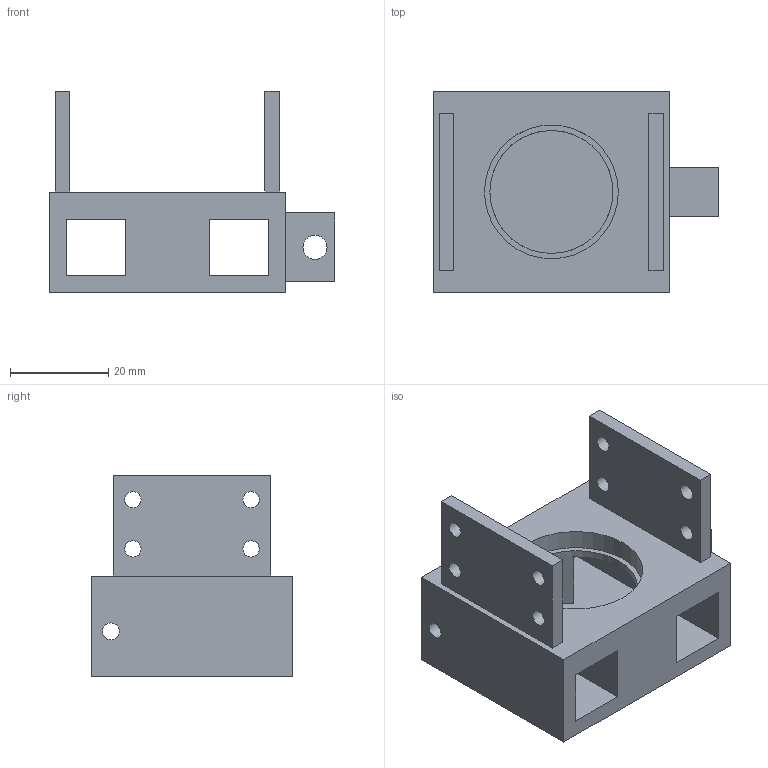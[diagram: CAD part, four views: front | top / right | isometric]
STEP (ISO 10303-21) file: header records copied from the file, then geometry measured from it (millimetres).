
FILE_DESCRIPTION(('Open CASCADE Model'),'2;1');
FILE_NAME('Open CASCADE Shape Model','2026-10-15T21:05:20',('Author'),( 'Open CASCADE'),'Open CASCADE STEP processor 7.9','Open CASCADE 7.9' ,'Unknown');
FILE_SCHEMA(('AUTOMOTIVE_DESIGN { 1 0 10303 214 1 1 1 1 }'));
Length unit declared in the file: millimetre
Products named in the file (1): Open CASCADE STEP translator 7.9 7
Bounding box: 58 x 41 x 41 mm (x, y, z)
Volume: 26072.1 mm3; surface area: 14977.7 mm2
Topology: 1 solids, 1 shells, 47 faces, 132 edges, 88 vertices
Faces by surface type: plane 31, cylinder 16
Full cylindrical faces by diameter (mm): 3 x2, 3.3 x8, 3.4 x3, 4.9 x1, 25 x1, 27.2 x1
Entity records: 3353 total; most frequent: CARTESIAN_POINT 778, DIRECTION 437, ORIENTED_EDGE 264, LINE 264, VECTOR 264, PCURVE 264, DEFINITIONAL_REPRESENTATION 264, EDGE_CURVE 132
